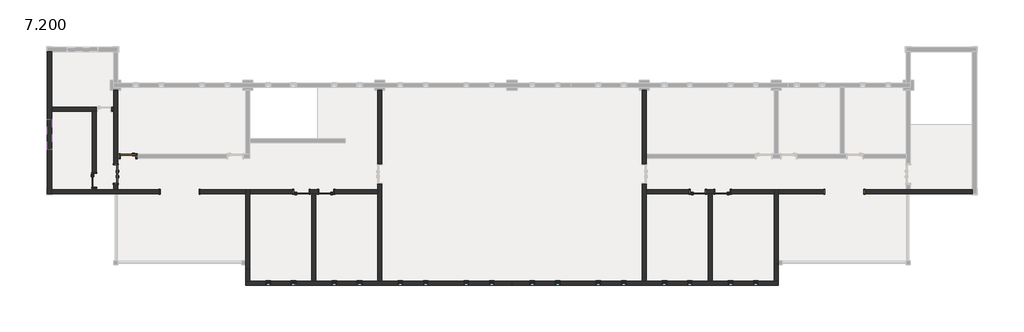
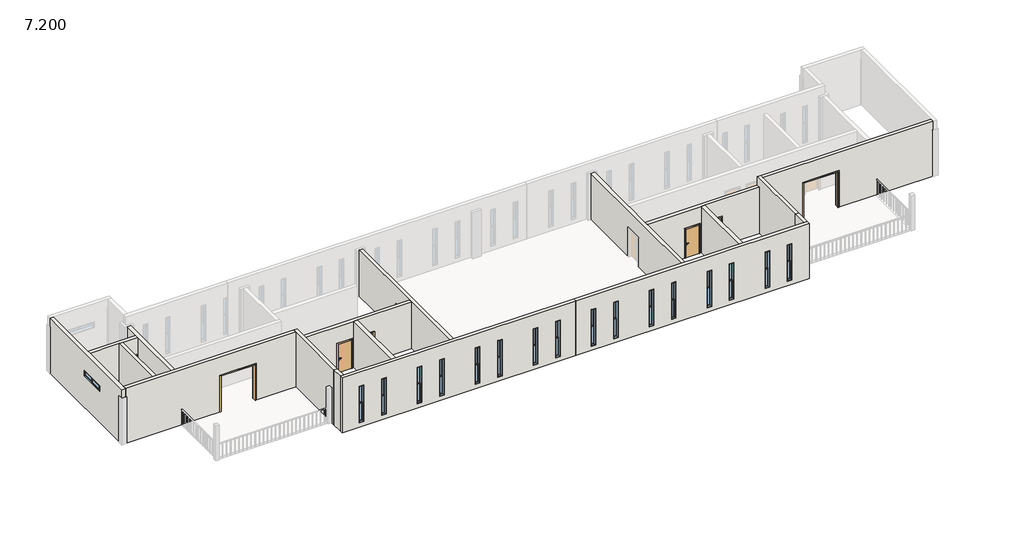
# One storey, part 1 of 3: 18 walls, 17 windows, 9 doors.
"""IFC4 building model written with IfcOpenShell, lengths in millimetres."""

from ifc_helpers import new_model, si_unit, frame, origin, place, context, project, spatial, polyline, outline, extrude, faceted_brep, transform, mapped, element, save
from components import d2426_82d8274d, d2426_2cd21a30, m0921_be2d5bec, m1021_ed8d65da, m1021_7d4f1ed1, m1221_25037a99, c0326_e0add0ce, c0326_266272ab, c1804_f212372e

model = new_model("IFC4")

# Units and contexts
model_context = context("Model", 3, world=origin())
ifc_project = project(units=[si_unit("LENGTHUNIT", "METRE", prefix="MILLI")], contexts=[model_context])

# Site, building, storey
site = spatial("IfcSite", under=ifc_project)
building = spatial("IfcBuilding", under=site)
storey = spatial("IfcBuildingStorey", under=building, Name="7.200", Elevation=7200.0)

# Doors
placement = place(None, origin())
d2426_shape = d2426_82d8274d(model_context)
element("IfcDoor", 1, ObjectType="门洞 : D2426", at=placement, inside=storey, context=model_context, shape_type="MappedRepresentation", body=[
    mapped(d2426_shape, transform((117.9890344, -783.3904183, 7200.0), x_axis=(1.0, 0.0, 0.0), y_axis=(0.0, 1.0, 0.0), z_axis=(0.0, 0.0, 1.0))),
])
d2426_2_shape = d2426_2cd21a30(model_context)
element("IfcDoor", 2, ObjectType="门洞 : D2426", at=placement, inside=storey, context=model_context, shape_type="MappedRepresentation", body=[
    mapped(d2426_2_shape, transform((39347.9890344, -783.3904183, 7200.0), x_axis=(-1.0, 0.0, 0.0), y_axis=(0.0, -1.0, 0.0), z_axis=(0.0, 0.0, 1.0))),
])
m0921_shape = m0921_be2d5bec(model_context)
element("IfcDoor", 3, ObjectType="单嵌板木门 1 : M0921", at=placement, inside=storey, context=model_context, shape_type="MappedRepresentation", body=[
    mapped(m0921_shape, transform((-4937.0109656, -98.3904183, 7200.0), x_axis=(0.0, -1.0, 0.0), y_axis=(1.0, 0.0, 0.0), z_axis=(0.0, 0.0, 1.0))),
])
m1021_shape = m1021_ed8d65da(model_context)
element("IfcDoor", 4, ObjectType="单嵌板木门 1 : M1021", at=placement, inside=storey, context=model_context, shape_type="MappedRepresentation", body=[
    mapped(m1021_shape, transform((8767.9890344, -783.3904183, 7200.0), x_axis=(-1.0, 0.0, 0.0), y_axis=(0.0, -1.0, 0.0), z_axis=(0.0, 0.0, 1.0))),
])
element("IfcDoor", 5, ObjectType="单嵌板木门 1 : M1021", at=placement, inside=storey, context=model_context, shape_type="MappedRepresentation", body=[
    mapped(m1021_shape, transform((32167.9890344, -783.3904183, 7200.0), x_axis=(-1.0, 0.0, 0.0), y_axis=(0.0, -1.0, 0.0), z_axis=(0.0, 0.0, 1.0))),
])
m1021_2_shape = m1021_7d4f1ed1(model_context)
element("IfcDoor", 6, ObjectType="单嵌板木门 1 : M1021", at=placement, inside=storey, context=model_context, shape_type="MappedRepresentation", body=[
    mapped(m1021_2_shape, transform((7297.9890344, -783.3904183, 7200.0), x_axis=(1.0, 0.0, 0.0), y_axis=(0.0, 1.0, 0.0), z_axis=(0.0, 0.0, 1.0))),
])
element("IfcDoor", 7, ObjectType="单嵌板木门 1 : M1021", at=placement, inside=storey, context=model_context, shape_type="MappedRepresentation", body=[
    mapped(m1021_2_shape, transform((-2932.0109656, 1316.6095817, 7200.0), x_axis=(-1.0, 0.0, 0.0), y_axis=(0.0, -1.0, 0.0), z_axis=(0.0, 0.0, 1.0))),
])
element("IfcDoor", 8, ObjectType="单嵌板木门 1 : M1021", at=placement, inside=storey, context=model_context, shape_type="MappedRepresentation", body=[
    mapped(m1021_2_shape, transform((30697.9890344, -783.3904183, 7200.0), x_axis=(1.0, 0.0, 0.0), y_axis=(0.0, 1.0, 0.0), z_axis=(0.0, 0.0, 1.0))),
])
m1221_shape = m1221_25037a99(model_context)
element("IfcDoor", 9, ObjectType="双面嵌板木门 1 : M1221", at=placement, inside=storey, context=model_context, shape_type="MappedRepresentation", body=[
    mapped(m1221_shape, transform((-3667.0109656, 266.6095817, 7200.0), x_axis=(0.0, -1.0, 0.0), y_axis=(1.0, 0.0, 0.0), z_axis=(0.0, 0.0, 1.0))),
])

# Walls
element("IfcWall", 10, ObjectType="240mm厚墙", at=placement, inside=storey, context=model_context, shape_type="Brep", body=[
    faceted_brep([(-7687.0109656, 7496.6095817, 7200.0), (-7687.0109656, -903.3904183, 7200.0), (-7687.0109656, -903.3904183, 11100.0), (-7687.0109656, 7496.6095817, 11100.0), (-7687.0109656, 3506.6095817, 9800.0), (-7687.0109656, 1706.6095817, 9800.0), (-7687.0109656, 1706.6095817, 9400.0), (-7687.0109656, 3506.6095817, 9400.0), (-7447.0109656, 7496.6095817, 7200.0), (-7447.0109656, 7496.6095817, 11100.0), (-7447.0109656, -663.3904183, 11100.0), (-7447.0109656, -903.3904183, 11100.0), (-7447.0109656, -903.3904183, 7200.0), (-7447.0109656, -663.3904183, 7200.0), (-7447.0109656, 3981.6095817, 7200.0), (-7447.0109656, 4221.6095817, 7200.0), (-7447.0109656, 3506.6095817, 9800.0), (-7447.0109656, 3506.6095817, 9400.0), (-7447.0109656, 1706.6095817, 9400.0), (-7447.0109656, 1706.6095817, 9800.0)], [[[0, 1, 2, 3], [4, 5, 6, 7]], [[8, 9, 10, 11, 12, 13, 14, 15], [16, 17, 18, 19]], [[1, 0, 8, 15, 14, 13, 12]], [[3, 2, 11, 10, 9]], [[0, 3, 9, 8]], [[2, 1, 12, 11]], [[17, 16, 4, 7]], [[18, 17, 7, 6]], [[19, 18, 6, 5]], [[16, 19, 5, 4]]]),
])
element("IfcWall", 11, ObjectType="240mm厚墙", at=placement, inside=storey, context=model_context, shape_type="Brep", body=[
    faceted_brep([(4012.9890344, -903.3904183, 11100.0), (-7447.0109656, -903.3904183, 11100.0), (-7447.0109656, -903.3904183, 7200.0), (-1082.0109656, -903.3904183, 7200.0), (-1082.0109656, -903.3904183, 9800.0), (1317.9890344, -903.3904183, 9800.0), (1317.9890344, -903.3904183, 7200.0), (4012.9890344, -903.3904183, 7200.0), (-7447.0109656, -663.3904183, 11100.0), (4012.9890344, -663.3904183, 11100.0), (4012.9890344, -663.3904183, 7200.0), (1317.9890344, -663.3904183, 7200.0), (1317.9890344, -663.3904183, 9800.0), (-1082.0109656, -663.3904183, 9800.0), (-1082.0109656, -663.3904183, 7200.0), (-3547.0109656, -663.3904183, 7200.0), (-3787.0109656, -663.3904183, 7200.0), (-4817.0109656, -663.3904183, 7200.0), (-5057.0109656, -663.3904183, 7200.0), (-7447.0109656, -663.3904183, 7200.0)], [[[0, 1, 2, 3, 4, 5, 6, 7]], [[8, 9, 10, 11, 12, 13, 14, 15, 16, 17, 18, 19]], [[10, 7, 6, 11]], [[2, 19, 18, 17, 16, 15, 14, 3]], [[1, 0, 9, 8]], [[0, 7, 10, 9]], [[2, 1, 8, 19]], [[5, 12, 11, 6]], [[12, 5, 4, 13]], [[13, 4, 3, 14]]]),
])
element("IfcWall", 12, ObjectType="240mm厚墙", at=placement, inside=storey, context=model_context, shape_type="Brep", body=[
    faceted_brep([(11812.9890344, -6063.3904183, 10500.0), (11812.9890344, -903.3904183, 10500.0), (11812.9890344, -663.3904183, 10500.0), (11812.9890344, 5216.6095817, 10500.0), (11812.9890344, 5216.6095817, 7200.0), (11812.9890344, 861.6095817, 7200.0), (11812.9890344, 861.6095817, 9300.0), (11812.9890344, -338.3904183, 9300.0), (11812.9890344, -338.3904183, 7200.0), (11812.9890344, -663.3904183, 7200.0), (11812.9890344, -903.3904183, 7200.0), (11812.9890344, -6063.3904183, 7200.0), (12052.9890344, 5216.6095817, 10500.0), (12052.9890344, -6063.3904183, 10500.0), (12052.9890344, -6063.3904183, 7200.0), (12052.9890344, -338.3904183, 7200.0), (12052.9890344, -338.3904183, 9300.0), (12052.9890344, 861.6095817, 9300.0), (12052.9890344, 861.6095817, 7200.0), (12052.9890344, 5216.6095817, 7200.0)], [[[0, 1, 2, 3, 4, 5, 6, 7, 8, 9, 10, 11]], [[12, 13, 14, 15, 16, 17, 18, 19]], [[4, 19, 18, 5]], [[14, 11, 10, 9, 8, 15]], [[3, 2, 1, 0, 13, 12]], [[4, 3, 12, 19]], [[0, 11, 14, 13]], [[17, 6, 5, 18]], [[6, 17, 16, 7]], [[7, 16, 15, 8]]]),
])
element("IfcWall", 13, ObjectType="240mm厚墙", at=placement, inside=storey, context=model_context, shape_type="Brep", body=[
    faceted_brep([(19732.9890344, -6063.3904183, 7200.0), (12052.9890344, -6063.3904183, 7200.0), (11812.9890344, -6063.3904183, 7200.0), (8152.9890344, -6063.3904183, 7200.0), (7912.9890344, -6063.3904183, 7200.0), (4252.9890344, -6063.3904183, 7200.0), (4012.9890344, -6063.3904183, 7200.0), (4012.9890344, -6063.3904183, 11100.0), (4252.9890344, -6063.3904183, 11100.0), (19732.9890344, -6063.3904183, 11100.0), (5482.9890344, -6063.3904183, 10100.0), (5182.9890344, -6063.3904183, 10100.0), (5182.9890344, -6063.3904183, 7500.0), (5482.9890344, -6063.3904183, 7500.0), (6982.9890344, -6063.3904183, 10100.0), (6682.9890344, -6063.3904183, 10100.0), (6682.9890344, -6063.3904183, 7500.0), (6982.9890344, -6063.3904183, 7500.0), (9082.9890344, -6063.3904183, 10100.0), (9082.9890344, -6063.3904183, 7500.0), (9382.9890344, -6063.3904183, 7500.0), (9382.9890344, -6063.3904183, 10100.0), (10582.9890344, -6063.3904183, 10100.0), (10582.9890344, -6063.3904183, 7500.0), (10882.9890344, -6063.3904183, 7500.0), (10882.9890344, -6063.3904183, 10100.0), (12982.9890344, -6063.3904183, 10100.0), (12982.9890344, -6063.3904183, 7500.0), (13282.9890344, -6063.3904183, 7500.0), (13282.9890344, -6063.3904183, 10100.0), (14482.9890344, -6063.3904183, 10100.0), (14482.9890344, -6063.3904183, 7500.0), (14782.9890344, -6063.3904183, 7500.0), (14782.9890344, -6063.3904183, 10100.0), (16882.9890344, -6063.3904183, 10100.0), (16882.9890344, -6063.3904183, 7500.0), (17182.9890344, -6063.3904183, 7500.0), (17182.9890344, -6063.3904183, 10100.0), (18382.9890344, -6063.3904183, 10100.0), (18382.9890344, -6063.3904183, 7500.0), (18682.9890344, -6063.3904183, 7500.0), (18682.9890344, -6063.3904183, 10100.0), (4012.9890344, -6303.3904183, 7200.0), (19732.9890344, -6303.3904183, 7200.0), (19732.9890344, -6303.3904183, 11100.0), (4012.9890344, -6303.3904183, 11100.0), (5482.9890344, -6303.3904183, 10100.0), (5482.9890344, -6303.3904183, 7500.0), (5182.9890344, -6303.3904183, 7500.0), (5182.9890344, -6303.3904183, 10100.0), (6982.9890344, -6303.3904183, 10100.0), (6982.9890344, -6303.3904183, 7500.0), (6682.9890344, -6303.3904183, 7500.0), (6682.9890344, -6303.3904183, 10100.0), (9082.9890344, -6303.3904183, 10100.0), (9382.9890344, -6303.3904183, 10100.0), (9382.9890344, -6303.3904183, 7500.0), (9082.9890344, -6303.3904183, 7500.0), (10582.9890344, -6303.3904183, 10100.0), (10882.9890344, -6303.3904183, 10100.0), (10882.9890344, -6303.3904183, 7500.0), (10582.9890344, -6303.3904183, 7500.0), (12982.9890344, -6303.3904183, 7500.0), (12982.9890344, -6303.3904183, 10100.0), (13282.9890344, -6303.3904183, 10100.0), (13282.9890344, -6303.3904183, 7500.0), (14482.9890344, -6303.3904183, 7500.0), (14482.9890344, -6303.3904183, 10100.0), (14782.9890344, -6303.3904183, 10100.0), (14782.9890344, -6303.3904183, 7500.0), (16882.9890344, -6303.3904183, 7500.0), (16882.9890344, -6303.3904183, 10100.0), (17182.9890344, -6303.3904183, 10100.0), (17182.9890344, -6303.3904183, 7500.0), (18382.9890344, -6303.3904183, 7500.0), (18382.9890344, -6303.3904183, 10100.0), (18682.9890344, -6303.3904183, 10100.0), (18682.9890344, -6303.3904183, 7500.0)], [[[0, 1, 2, 3, 4, 5, 6, 7, 8, 9], [10, 11, 12, 13], [14, 15, 16, 17], [18, 19, 20, 21], [22, 23, 24, 25], [26, 27, 28, 29], [30, 31, 32, 33], [34, 35, 36, 37], [38, 39, 40, 41]], [[42, 43, 44, 45], [46, 47, 48, 49], [50, 51, 52, 53], [54, 55, 56, 57], [58, 59, 60, 61], [62, 63, 64, 65], [66, 67, 68, 69], [70, 71, 72, 73], [74, 75, 76, 77]], [[6, 5, 4, 3, 2, 1, 0, 43, 42]], [[9, 8, 7, 45, 44]], [[0, 9, 44, 43]], [[7, 6, 42, 45]], [[47, 46, 10, 13]], [[48, 47, 13, 12]], [[49, 48, 12, 11]], [[46, 49, 11, 10]], [[51, 50, 14, 17]], [[52, 51, 17, 16]], [[53, 52, 16, 15]], [[50, 53, 15, 14]], [[19, 18, 54, 57]], [[20, 19, 57, 56]], [[21, 20, 56, 55]], [[18, 21, 55, 54]], [[23, 22, 58, 61]], [[24, 23, 61, 60]], [[25, 24, 60, 59]], [[22, 25, 59, 58]], [[26, 63, 62, 27]], [[27, 62, 65, 28]], [[28, 65, 64, 29]], [[63, 26, 29, 64]], [[66, 31, 30, 67]], [[31, 66, 69, 32]], [[68, 33, 32, 69]], [[67, 30, 33, 68]], [[70, 35, 34, 71]], [[35, 70, 73, 36]], [[72, 37, 36, 73]], [[71, 34, 37, 72]], [[74, 39, 38, 75]], [[39, 74, 77, 40]], [[76, 41, 40, 77]], [[75, 38, 41, 76]]]),
])
element("IfcWall", 14, ObjectType="240mm厚墙", at=placement, inside=storey, context=model_context, shape_type="SweptSolid", body=[
    extrude(outline(polyline([(4252.9890344, -5347.5881871), (4252.9890344, -6063.3904183), (4012.9890344, -6063.3904183), (4012.9890344, -5347.5881871), (4252.9890344, -5347.5881871)])), frame((0.0, 0.0, 7200.0), z_axis=(0.0, 0.0, 1.0), x_axis=(1.0, 0.0, 0.0)), (0.0, 0.0, 1.0), 3900.0),
])
element("IfcWall", 15, ObjectType="240mm厚墙", at=placement, inside=storey, context=model_context, shape_type="Brep", body=[
    faceted_brep([(4252.9890344, -5347.5881871, 7200.0), (4252.9890344, -663.3904183, 7200.0), (4252.9890344, -663.3904183, 11100.0), (4252.9890344, -5347.5881871, 11100.0), (4012.9890344, -5347.5881871, 7200.0), (4012.9890344, -5347.5881871, 11100.0), (4012.9890344, -903.3904183, 11100.0), (4012.9890344, -663.3904183, 11100.0), (4012.9890344, -663.3904183, 7200.0), (4012.9890344, -903.3904183, 7200.0)], [[[0, 1, 2, 3]], [[4, 5, 6, 7, 8, 9]], [[1, 0, 4, 9, 8]], [[3, 2, 7, 6, 5]], [[0, 3, 5, 4]], [[2, 1, 8, 7]]]),
])
element("IfcWall", 16, ObjectType="240mm厚墙", at=placement, inside=storey, context=model_context, shape_type="SweptSolid", body=[
    extrude(outline(polyline([(8152.9890344, -903.3904183), (8152.9890344, -6063.3904183), (7912.9890344, -6063.3904183), (7912.9890344, -903.3904183), (8152.9890344, -903.3904183)])), frame((0.0, 0.0, 7200.0), z_axis=(0.0, 0.0, 1.0), x_axis=(1.0, 0.0, 0.0)), (0.0, 0.0, 1.0), 3300.0),
])
element("IfcWall", 17, ObjectType="240mm厚墙", at=placement, inside=storey, context=model_context, shape_type="Brep", body=[
    faceted_brep([(-3787.0109656, -663.3904183, 10500.0), (-3787.0109656, 3981.6095817, 10500.0), (-3787.0109656, 4221.6095817, 10500.0), (-3787.0109656, 5216.6095817, 10500.0), (-3787.0109656, 5216.6095817, 7200.0), (-3787.0109656, 4221.6095817, 7200.0), (-3787.0109656, 3981.6095817, 7200.0), (-3787.0109656, 866.6095817, 7200.0), (-3787.0109656, 866.6095817, 9300.0), (-3787.0109656, -333.3904183, 9300.0), (-3787.0109656, -333.3904183, 7200.0), (-3787.0109656, -663.3904183, 7200.0), (-3547.0109656, 5216.6095817, 10500.0), (-3547.0109656, 1436.6095817, 10500.0), (-3547.0109656, 1196.6095817, 10500.0), (-3547.0109656, -663.3904183, 10500.0), (-3547.0109656, -663.3904183, 7200.0), (-3547.0109656, -333.3904183, 7200.0), (-3547.0109656, -333.3904183, 9300.0), (-3547.0109656, 866.6095817, 9300.0), (-3547.0109656, 866.6095817, 7200.0), (-3547.0109656, 1196.6095817, 7200.0), (-3547.0109656, 1436.6095817, 7200.0), (-3547.0109656, 5216.6095817, 7200.0)], [[[0, 1, 2, 3, 4, 5, 6, 7, 8, 9, 10, 11]], [[12, 13, 14, 15, 16, 17, 18, 19, 20, 21, 22, 23]], [[4, 23, 22, 21, 20, 7, 6, 5]], [[16, 11, 10, 17]], [[3, 2, 1, 0, 15, 14, 13, 12]], [[4, 3, 12, 23]], [[0, 11, 16, 15]], [[9, 18, 17, 10]], [[18, 9, 8, 19]], [[19, 8, 7, 20]]]),
])
element("IfcWall", 18, ObjectType="240mm厚墙", at=placement, inside=storey, context=model_context, shape_type="Brep", body=[
    faceted_brep([(-3787.0109656, 3981.6095817, 10500.0), (-4817.0109656, 3981.6095817, 10500.0), (-5057.0109656, 3981.6095817, 10500.0), (-7447.0109656, 3981.6095817, 10500.0), (-7447.0109656, 3981.6095817, 7200.0), (-5057.0109656, 3981.6095817, 7200.0), (-4817.0109656, 3981.6095817, 7200.0), (-4802.0109656, 3981.6095817, 7200.0), (-4802.0109656, 3981.6095817, 9300.0), (-3902.0109656, 3981.6095817, 9300.0), (-3902.0109656, 3981.6095817, 7200.0), (-3787.0109656, 3981.6095817, 7200.0), (-7447.0109656, 4221.6095817, 10500.0), (-3787.0109656, 4221.6095817, 10500.0), (-3787.0109656, 4221.6095817, 7200.0), (-3902.0109656, 4221.6095817, 7200.0), (-3902.0109656, 4221.6095817, 9300.0), (-4802.0109656, 4221.6095817, 9300.0), (-4802.0109656, 4221.6095817, 7200.0), (-7447.0109656, 4221.6095817, 7200.0)], [[[0, 1, 2, 3, 4, 5, 6, 7, 8, 9, 10, 11]], [[12, 13, 14, 15, 16, 17, 18, 19]], [[4, 19, 18, 7, 6, 5]], [[14, 11, 10, 15]], [[3, 2, 1, 0, 13, 12]], [[4, 3, 12, 19]], [[0, 11, 14, 13]], [[9, 16, 15, 10]], [[16, 9, 8, 17]], [[17, 8, 7, 18]]]),
])
element("IfcWall", 19, ObjectType="240mm厚墙", at=placement, inside=storey, context=model_context, shape_type="SweptSolid", body=[
    extrude(outline(polyline([(-663.3904183, 10500.0), (3981.6095817, 10500.0), (3981.6095817, 7200.0), (351.6095817, 7200.0), (351.6095817, 9300.0), (-548.3904183, 9300.0), (-548.3904183, 7200.0), (-663.3904183, 7200.0), (-663.3904183, 10500.0)])), frame((-5057.0109656, 0.0, 0.0), z_axis=(1.0, 0.0, 0.0), x_axis=(0.0, 1.0, 0.0)), (0.0, 0.0, 1.0), 240.0),
])
element("IfcWall", 20, ObjectType="240mm厚墙", at=placement, inside=storey, context=model_context, shape_type="Brep", body=[
    faceted_brep([(35452.9890344, -663.3904183, 11100.0), (46912.9890344, -663.3904183, 11100.0), (46912.9890344, -663.3904183, 7200.0), (43252.9890344, -663.3904183, 7200.0), (43012.9890344, -663.3904183, 7200.0), (40547.9890344, -663.3904183, 7200.0), (40547.9890344, -663.3904183, 9800.0), (38147.9890344, -663.3904183, 9800.0), (38147.9890344, -663.3904183, 7200.0), (35452.9890344, -663.3904183, 7200.0), (46912.9890344, -903.3904183, 11100.0), (35452.9890344, -903.3904183, 11100.0), (35452.9890344, -903.3904183, 7200.0), (38147.9890344, -903.3904183, 7200.0), (38147.9890344, -903.3904183, 9800.0), (40547.9890344, -903.3904183, 9800.0), (40547.9890344, -903.3904183, 7200.0), (46912.9890344, -903.3904183, 7200.0)], [[[0, 1, 2, 3, 4, 5, 6, 7, 8, 9]], [[10, 11, 12, 13, 14, 15, 16, 17]], [[12, 9, 8, 13]], [[2, 17, 16, 5, 4, 3]], [[1, 0, 11, 10]], [[0, 9, 12, 11]], [[2, 1, 10, 17]], [[7, 14, 13, 8]], [[14, 7, 6, 15]], [[15, 6, 5, 16]]]),
])
element("IfcWall", 21, ObjectType="240mm厚墙", at=placement, inside=storey, context=model_context, shape_type="Brep", body=[
    faceted_brep([(27412.9890344, -6063.3904183, 10500.0), (27412.9890344, 5216.6095817, 10500.0), (27412.9890344, 5216.6095817, 7200.0), (27412.9890344, 866.6095817, 7200.0), (27412.9890344, 866.6095817, 9300.0), (27412.9890344, -333.3904183, 9300.0), (27412.9890344, -333.3904183, 7200.0), (27412.9890344, -6063.3904183, 7200.0), (27652.9890344, 5216.6095817, 10500.0), (27652.9890344, 1436.6095817, 10500.0), (27652.9890344, 1196.6095817, 10500.0), (27652.9890344, -663.3904183, 10500.0), (27652.9890344, -903.3904183, 10500.0), (27652.9890344, -6063.3904183, 10500.0), (27652.9890344, -6063.3904183, 7200.0), (27652.9890344, -903.3904183, 7200.0), (27652.9890344, -663.3904183, 7200.0), (27652.9890344, -333.3904183, 7200.0), (27652.9890344, -333.3904183, 9300.0), (27652.9890344, 866.6095817, 9300.0), (27652.9890344, 866.6095817, 7200.0), (27652.9890344, 1196.6095817, 7200.0), (27652.9890344, 1436.6095817, 7200.0), (27652.9890344, 5216.6095817, 7200.0)], [[[0, 1, 2, 3, 4, 5, 6, 7]], [[8, 9, 10, 11, 12, 13, 14, 15, 16, 17, 18, 19, 20, 21, 22, 23]], [[2, 23, 22, 21, 20, 3]], [[14, 7, 6, 17, 16, 15]], [[1, 0, 13, 12, 11, 10, 9, 8]], [[2, 1, 8, 23]], [[0, 7, 14, 13]], [[5, 18, 17, 6]], [[18, 5, 4, 19]], [[19, 4, 3, 20]]]),
])
element("IfcWall", 22, ObjectType="240mm厚墙", at=placement, inside=storey, context=model_context, shape_type="Brep", body=[
    faceted_brep([(19732.9890344, -6303.3904183, 7200.0), (35452.9890344, -6303.3904183, 7200.0), (35452.9890344, -6303.3904183, 11100.0), (19732.9890344, -6303.3904183, 11100.0), (30382.9890344, -6303.3904183, 10100.0), (30382.9890344, -6303.3904183, 7500.0), (30082.9890344, -6303.3904183, 7500.0), (30082.9890344, -6303.3904183, 10100.0), (28882.9890344, -6303.3904183, 10100.0), (28882.9890344, -6303.3904183, 7500.0), (28582.9890344, -6303.3904183, 7500.0), (28582.9890344, -6303.3904183, 10100.0), (32482.9890344, -6303.3904183, 10100.0), (32782.9890344, -6303.3904183, 10100.0), (32782.9890344, -6303.3904183, 7500.0), (32482.9890344, -6303.3904183, 7500.0), (33982.9890344, -6303.3904183, 10100.0), (34282.9890344, -6303.3904183, 10100.0), (34282.9890344, -6303.3904183, 7500.0), (33982.9890344, -6303.3904183, 7500.0), (21082.9890344, -6303.3904183, 10100.0), (21082.9890344, -6303.3904183, 7500.0), (20782.9890344, -6303.3904183, 7500.0), (20782.9890344, -6303.3904183, 10100.0), (22582.9890344, -6303.3904183, 10100.0), (22582.9890344, -6303.3904183, 7500.0), (22282.9890344, -6303.3904183, 7500.0), (22282.9890344, -6303.3904183, 10100.0), (24982.9890344, -6303.3904183, 10100.0), (24982.9890344, -6303.3904183, 7500.0), (24682.9890344, -6303.3904183, 7500.0), (24682.9890344, -6303.3904183, 10100.0), (26482.9890344, -6303.3904183, 10100.0), (26482.9890344, -6303.3904183, 7500.0), (26182.9890344, -6303.3904183, 7500.0), (26182.9890344, -6303.3904183, 10100.0), (19732.9890344, -6063.3904183, 7200.0), (19732.9890344, -6063.3904183, 11100.0), (35212.9890344, -6063.3904183, 11100.0), (35452.9890344, -6063.3904183, 11100.0), (35452.9890344, -6063.3904183, 7200.0), (35212.9890344, -6063.3904183, 7200.0), (31552.9890344, -6063.3904183, 7200.0), (31312.9890344, -6063.3904183, 7200.0), (27652.9890344, -6063.3904183, 7200.0), (27412.9890344, -6063.3904183, 7200.0), (30382.9890344, -6063.3904183, 10100.0), (30082.9890344, -6063.3904183, 10100.0), (30082.9890344, -6063.3904183, 7500.0), (30382.9890344, -6063.3904183, 7500.0), (28882.9890344, -6063.3904183, 10100.0), (28582.9890344, -6063.3904183, 10100.0), (28582.9890344, -6063.3904183, 7500.0), (28882.9890344, -6063.3904183, 7500.0), (32482.9890344, -6063.3904183, 10100.0), (32482.9890344, -6063.3904183, 7500.0), (32782.9890344, -6063.3904183, 7500.0), (32782.9890344, -6063.3904183, 10100.0), (33982.9890344, -6063.3904183, 10100.0), (33982.9890344, -6063.3904183, 7500.0), (34282.9890344, -6063.3904183, 7500.0), (34282.9890344, -6063.3904183, 10100.0), (21082.9890344, -6063.3904183, 10100.0), (20782.9890344, -6063.3904183, 10100.0), (20782.9890344, -6063.3904183, 7500.0), (21082.9890344, -6063.3904183, 7500.0), (22582.9890344, -6063.3904183, 10100.0), (22282.9890344, -6063.3904183, 10100.0), (22282.9890344, -6063.3904183, 7500.0), (22582.9890344, -6063.3904183, 7500.0), (24982.9890344, -6063.3904183, 10100.0), (24682.9890344, -6063.3904183, 10100.0), (24682.9890344, -6063.3904183, 7500.0), (24982.9890344, -6063.3904183, 7500.0), (26482.9890344, -6063.3904183, 10100.0), (26182.9890344, -6063.3904183, 10100.0), (26182.9890344, -6063.3904183, 7500.0), (26482.9890344, -6063.3904183, 7500.0)], [[[0, 1, 2, 3], [4, 5, 6, 7], [8, 9, 10, 11], [12, 13, 14, 15], [16, 17, 18, 19], [20, 21, 22, 23], [24, 25, 26, 27], [28, 29, 30, 31], [32, 33, 34, 35]], [[36, 37, 38, 39, 40, 41, 42, 43, 44, 45], [46, 47, 48, 49], [50, 51, 52, 53], [54, 55, 56, 57], [58, 59, 60, 61], [62, 63, 64, 65], [66, 67, 68, 69], [70, 71, 72, 73], [74, 75, 76, 77]], [[1, 0, 36, 45, 44, 43, 42, 41, 40]], [[3, 2, 39, 38, 37]], [[0, 3, 37, 36]], [[2, 1, 40, 39]], [[5, 4, 46, 49]], [[6, 5, 49, 48]], [[7, 6, 48, 47]], [[4, 7, 47, 46]], [[9, 8, 50, 53]], [[10, 9, 53, 52]], [[11, 10, 52, 51]], [[8, 11, 51, 50]], [[55, 54, 12, 15]], [[56, 55, 15, 14]], [[57, 56, 14, 13]], [[54, 57, 13, 12]], [[59, 58, 16, 19]], [[60, 59, 19, 18]], [[61, 60, 18, 17]], [[58, 61, 17, 16]], [[21, 20, 62, 65]], [[22, 21, 65, 64]], [[23, 22, 64, 63]], [[20, 23, 63, 62]], [[25, 24, 66, 69]], [[26, 25, 69, 68]], [[27, 26, 68, 67]], [[24, 27, 67, 66]], [[29, 28, 70, 73]], [[30, 29, 73, 72]], [[31, 30, 72, 71]], [[28, 31, 71, 70]], [[33, 32, 74, 77]], [[34, 33, 77, 76]], [[35, 34, 76, 75]], [[32, 35, 75, 74]]]),
])
element("IfcWall", 23, ObjectType="240mm厚墙", at=placement, inside=storey, context=model_context, shape_type="SweptSolid", body=[
    extrude(outline(polyline([(35452.9890344, -5065.8910218), (35452.9890344, -6063.3904183), (35212.9890344, -6063.3904183), (35212.9890344, -5065.8910218), (35452.9890344, -5065.8910218)])), frame((0.0, 0.0, 7200.0), z_axis=(0.0, 0.0, 1.0), x_axis=(1.0, 0.0, 0.0)), (0.0, 0.0, 1.0), 3900.0),
])
element("IfcWall", 24, ObjectType="240mm厚墙", at=placement, inside=storey, context=model_context, shape_type="Brep", body=[
    faceted_brep([(35452.9890344, -5065.8910218, 7200.0), (35452.9890344, -903.3904183, 7200.0), (35452.9890344, -663.3904183, 7200.0), (35452.9890344, -663.3904183, 11100.0), (35452.9890344, -903.3904183, 11100.0), (35452.9890344, -5065.8910218, 11100.0), (35212.9890344, -5065.8910218, 7200.0), (35212.9890344, -5065.8910218, 11100.0), (35212.9890344, -663.3904183, 11100.0), (35212.9890344, -663.3904183, 7200.0)], [[[0, 1, 2, 3, 4, 5]], [[6, 7, 8, 9]], [[2, 1, 0, 6, 9]], [[5, 4, 3, 8, 7]], [[0, 5, 7, 6]], [[3, 2, 9, 8]]]),
])
element("IfcWall", 25, ObjectType="240mm厚墙", at=placement, inside=storey, context=model_context, shape_type="SweptSolid", body=[
    extrude(outline(polyline([(31552.9890344, -903.3904183), (31552.9890344, -6063.3904183), (31312.9890344, -6063.3904183), (31312.9890344, -903.3904183), (31552.9890344, -903.3904183)])), frame((0.0, 0.0, 7200.0), z_axis=(0.0, 0.0, 1.0), x_axis=(1.0, 0.0, 0.0)), (0.0, 0.0, 1.0), 3300.0),
])
element("IfcWall", 26, ObjectType="240mm厚墙", at=placement, inside=storey, context=model_context, shape_type="Brep", body=[
    faceted_brep([(11812.9890344, -903.3904183, 10500.0), (8152.9890344, -903.3904183, 10500.0), (7912.9890344, -903.3904183, 10500.0), (4252.9890344, -903.3904183, 10500.0), (4252.9890344, -903.3904183, 7200.0), (6797.9890344, -903.3904183, 7200.0), (6797.9890344, -903.3904183, 9300.0), (7797.9890344, -903.3904183, 9300.0), (7797.9890344, -903.3904183, 7200.0), (7912.9890344, -903.3904183, 7200.0), (8152.9890344, -903.3904183, 7200.0), (8267.9890344, -903.3904183, 7200.0), (8267.9890344, -903.3904183, 9300.0), (9267.9890344, -903.3904183, 9300.0), (9267.9890344, -903.3904183, 7200.0), (11812.9890344, -903.3904183, 7200.0), (4252.9890344, -663.3904183, 10500.0), (11812.9890344, -663.3904183, 10500.0), (11812.9890344, -663.3904183, 7200.0), (9267.9890344, -663.3904183, 7200.0), (9267.9890344, -663.3904183, 9300.0), (8267.9890344, -663.3904183, 9300.0), (8267.9890344, -663.3904183, 7200.0), (7797.9890344, -663.3904183, 7200.0), (7797.9890344, -663.3904183, 9300.0), (6797.9890344, -663.3904183, 9300.0), (6797.9890344, -663.3904183, 7200.0), (4252.9890344, -663.3904183, 7200.0)], [[[0, 1, 2, 3, 4, 5, 6, 7, 8, 9, 10, 11, 12, 13, 14, 15]], [[16, 17, 18, 19, 20, 21, 22, 23, 24, 25, 26, 27]], [[4, 27, 26, 5]], [[18, 15, 14, 19]], [[8, 23, 22, 11, 10, 9]], [[3, 2, 1, 0, 17, 16]], [[4, 3, 16, 27]], [[0, 15, 18, 17]], [[7, 24, 23, 8]], [[24, 7, 6, 25]], [[25, 6, 5, 26]], [[21, 12, 11, 22]], [[12, 21, 20, 13]], [[13, 20, 19, 14]]]),
])
element("IfcWall", 27, ObjectType="240mm厚墙", at=placement, inside=storey, context=model_context, shape_type="Brep", body=[
    faceted_brep([(27652.9890344, -663.3904183, 10500.0), (35212.9890344, -663.3904183, 10500.0), (35212.9890344, -663.3904183, 7200.0), (32667.9890344, -663.3904183, 7200.0), (32667.9890344, -663.3904183, 9300.0), (31667.9890344, -663.3904183, 9300.0), (31667.9890344, -663.3904183, 7200.0), (31197.9890344, -663.3904183, 7200.0), (31197.9890344, -663.3904183, 9300.0), (30197.9890344, -663.3904183, 9300.0), (30197.9890344, -663.3904183, 7200.0), (27652.9890344, -663.3904183, 7200.0), (35212.9890344, -903.3904183, 10500.0), (31552.9890344, -903.3904183, 10500.0), (31312.9890344, -903.3904183, 10500.0), (27652.9890344, -903.3904183, 10500.0), (27652.9890344, -903.3904183, 7200.0), (30197.9890344, -903.3904183, 7200.0), (30197.9890344, -903.3904183, 9300.0), (31197.9890344, -903.3904183, 9300.0), (31197.9890344, -903.3904183, 7200.0), (31312.9890344, -903.3904183, 7200.0), (31552.9890344, -903.3904183, 7200.0), (31667.9890344, -903.3904183, 7200.0), (31667.9890344, -903.3904183, 9300.0), (32667.9890344, -903.3904183, 9300.0), (32667.9890344, -903.3904183, 7200.0), (35212.9890344, -903.3904183, 7200.0)], [[[0, 1, 2, 3, 4, 5, 6, 7, 8, 9, 10, 11]], [[12, 13, 14, 15, 16, 17, 18, 19, 20, 21, 22, 23, 24, 25, 26, 27]], [[2, 27, 26, 3]], [[16, 11, 10, 17]], [[20, 7, 6, 23, 22, 21]], [[1, 0, 15, 14, 13, 12]], [[2, 1, 12, 27]], [[0, 11, 16, 15]], [[19, 8, 7, 20]], [[8, 19, 18, 9]], [[9, 18, 17, 10]], [[5, 24, 23, 6]], [[24, 5, 4, 25]], [[25, 4, 3, 26]]]),
])

# Windows
c0326_shape = c0326_e0add0ce(model_context)
element("IfcWindow", 28, ObjectType="上下拉窗1 : C0326", at=placement, inside=storey, context=model_context, shape_type="MappedRepresentation", body=[
    mapped(c0326_shape, transform((5332.9890344, -6183.151958, 6600.0), x_axis=(1.0, 0.0, 0.0), y_axis=(0.0, 1.0, 0.0), z_axis=(0.0, 0.0, 1.0))),
])
element("IfcWindow", 29, ObjectType="上下拉窗1 : C0326", at=placement, inside=storey, context=model_context, shape_type="MappedRepresentation", body=[
    mapped(c0326_shape, transform((6832.9890344, -6183.151958, 6600.0), x_axis=(1.0, 0.0, 0.0), y_axis=(0.0, 1.0, 0.0), z_axis=(0.0, 0.0, 1.0))),
])
element("IfcWindow", 30, ObjectType="上下拉窗1 : C0326", at=placement, inside=storey, context=model_context, shape_type="MappedRepresentation", body=[
    mapped(c0326_shape, transform((28732.9890344, -6183.151958, 6600.0), x_axis=(1.0, 0.0, 0.0), y_axis=(0.0, 1.0, 0.0), z_axis=(0.0, 0.0, 1.0))),
])
element("IfcWindow", 31, ObjectType="上下拉窗1 : C0326", at=placement, inside=storey, context=model_context, shape_type="MappedRepresentation", body=[
    mapped(c0326_shape, transform((30232.9890344, -6183.151958, 6600.0), x_axis=(1.0, 0.0, 0.0), y_axis=(0.0, 1.0, 0.0), z_axis=(0.0, 0.0, 1.0))),
])
element("IfcWindow", 32, ObjectType="上下拉窗1 : C0326", at=placement, inside=storey, context=model_context, shape_type="MappedRepresentation", body=[
    mapped(c0326_shape, transform((26332.9890344, -6183.151958, 6600.0), x_axis=(1.0, 0.0, 0.0), y_axis=(0.0, 1.0, 0.0), z_axis=(0.0, 0.0, 1.0))),
])
element("IfcWindow", 33, ObjectType="上下拉窗1 : C0326", at=placement, inside=storey, context=model_context, shape_type="MappedRepresentation", body=[
    mapped(c0326_shape, transform((24832.9890344, -6183.151958, 6600.0), x_axis=(1.0, 0.0, 0.0), y_axis=(0.0, 1.0, 0.0), z_axis=(0.0, 0.0, 1.0))),
])
element("IfcWindow", 34, ObjectType="上下拉窗1 : C0326", at=placement, inside=storey, context=model_context, shape_type="MappedRepresentation", body=[
    mapped(c0326_shape, transform((22432.9890344, -6183.151958, 6600.0), x_axis=(1.0, 0.0, 0.0), y_axis=(0.0, 1.0, 0.0), z_axis=(0.0, 0.0, 1.0))),
])
element("IfcWindow", 35, ObjectType="上下拉窗1 : C0326", at=placement, inside=storey, context=model_context, shape_type="MappedRepresentation", body=[
    mapped(c0326_shape, transform((20932.9890344, -6183.151958, 6600.0), x_axis=(1.0, 0.0, 0.0), y_axis=(0.0, 1.0, 0.0), z_axis=(0.0, 0.0, 1.0))),
])
c0326_2_shape = c0326_266272ab(model_context)
element("IfcWindow", 36, ObjectType="上下拉窗1 : C0326", at=placement, inside=storey, context=model_context, shape_type="MappedRepresentation", body=[
    mapped(c0326_2_shape, transform((10732.9890344, -6183.151958, 6600.0), x_axis=(-1.0, 0.0, 0.0), y_axis=(0.0, -1.0, 0.0), z_axis=(0.0, 0.0, 1.0))),
])
element("IfcWindow", 37, ObjectType="上下拉窗1 : C0326", at=placement, inside=storey, context=model_context, shape_type="MappedRepresentation", body=[
    mapped(c0326_2_shape, transform((9232.9890344, -6183.151958, 6600.0), x_axis=(-1.0, 0.0, 0.0), y_axis=(0.0, -1.0, 0.0), z_axis=(0.0, 0.0, 1.0))),
])
element("IfcWindow", 38, ObjectType="上下拉窗1 : C0326", at=placement, inside=storey, context=model_context, shape_type="MappedRepresentation", body=[
    mapped(c0326_2_shape, transform((34132.9890344, -6183.151958, 6600.0), x_axis=(-1.0, 0.0, 0.0), y_axis=(0.0, -1.0, 0.0), z_axis=(0.0, 0.0, 1.0))),
])
element("IfcWindow", 39, ObjectType="上下拉窗1 : C0326", at=placement, inside=storey, context=model_context, shape_type="MappedRepresentation", body=[
    mapped(c0326_2_shape, transform((32632.9890344, -6183.151958, 6600.0), x_axis=(-1.0, 0.0, 0.0), y_axis=(0.0, -1.0, 0.0), z_axis=(0.0, 0.0, 1.0))),
])
element("IfcWindow", 40, ObjectType="上下拉窗1 : C0326", at=placement, inside=storey, context=model_context, shape_type="MappedRepresentation", body=[
    mapped(c0326_2_shape, transform((13132.9890344, -6183.151958, 6600.0), x_axis=(-1.0, 0.0, 0.0), y_axis=(0.0, -1.0, 0.0), z_axis=(0.0, 0.0, 1.0))),
])
element("IfcWindow", 41, ObjectType="上下拉窗1 : C0326", at=placement, inside=storey, context=model_context, shape_type="MappedRepresentation", body=[
    mapped(c0326_2_shape, transform((14632.9890344, -6183.151958, 6600.0), x_axis=(-1.0, 0.0, 0.0), y_axis=(0.0, -1.0, 0.0), z_axis=(0.0, 0.0, 1.0))),
])
element("IfcWindow", 42, ObjectType="上下拉窗1 : C0326", at=placement, inside=storey, context=model_context, shape_type="MappedRepresentation", body=[
    mapped(c0326_2_shape, transform((17032.9890344, -6183.151958, 6600.0), x_axis=(-1.0, 0.0, 0.0), y_axis=(0.0, -1.0, 0.0), z_axis=(0.0, 0.0, 1.0))),
])
element("IfcWindow", 43, ObjectType="上下拉窗1 : C0326", at=placement, inside=storey, context=model_context, shape_type="MappedRepresentation", body=[
    mapped(c0326_2_shape, transform((18532.9890344, -6183.151958, 6600.0), x_axis=(-1.0, 0.0, 0.0), y_axis=(0.0, -1.0, 0.0), z_axis=(0.0, 0.0, 1.0))),
])
c1804_shape = c1804_f212372e(model_context)
element("IfcWindow", 44, ObjectType="推拉窗6 : C1804", at=placement, inside=storey, context=model_context, shape_type="MappedRepresentation", body=[
    mapped(c1804_shape, transform((-7633.8844031, 2597.0845817, 8800.0), x_axis=(0.0, 1.0, 0.0), y_axis=(-1.0, 0.0, 0.0), z_axis=(0.0, 0.0, 1.0))),
])

save(model, "model.ifc")
